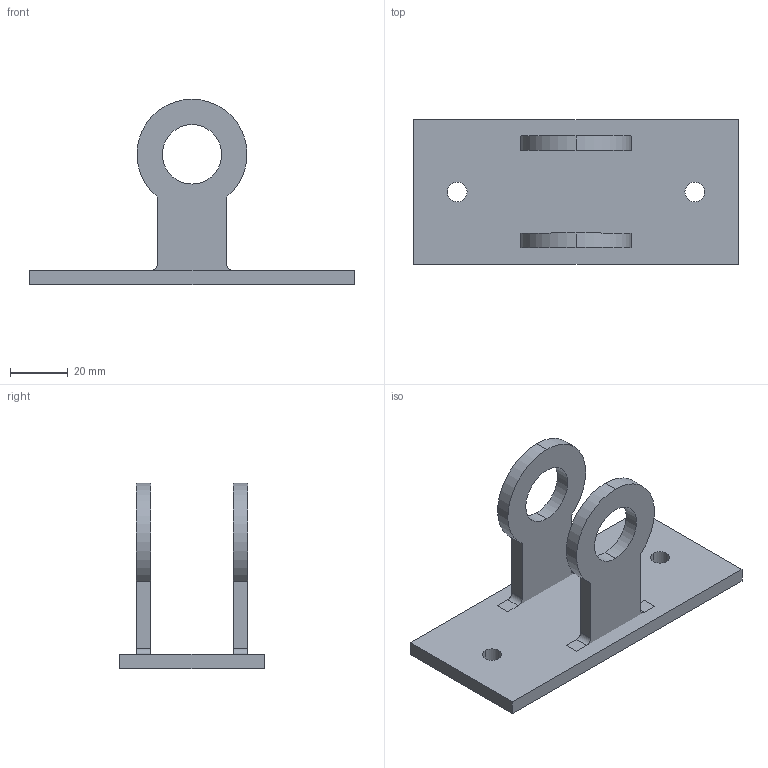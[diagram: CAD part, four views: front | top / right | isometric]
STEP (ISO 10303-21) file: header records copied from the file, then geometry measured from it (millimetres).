
FILE_DESCRIPTION (( 'STEP AP203' ), '1' );
FILE_NAME ('900.100.007.STEP', '2018-02-27T08:10:56', ( '' ), ( '' ), 'SwSTEP 2.0', 'SolidWorks 2016', '' );
FILE_SCHEMA (( 'CONFIG_CONTROL_DESIGN' ));
Length unit declared in the file: millimetre
Products named in the file (1): 900.100.007
Bounding box: 112 x 50 x 64 mm (x, y, z)
Volume: 42959.1 mm3; surface area: 21703.5 mm2
Topology: 3 solids, 3 shells, 40 faces, 102 edges, 68 vertices
Faces by surface type: plane 24, cylinder 16
Entity records: 1307 total; most frequent: DIRECTION 216, CARTESIAN_POINT 211, ORIENTED_EDGE 204, EDGE_CURVE 102, AXIS2_PLACEMENT_3D 73, LINE 70, VECTOR 70, VERTEX_POINT 68
